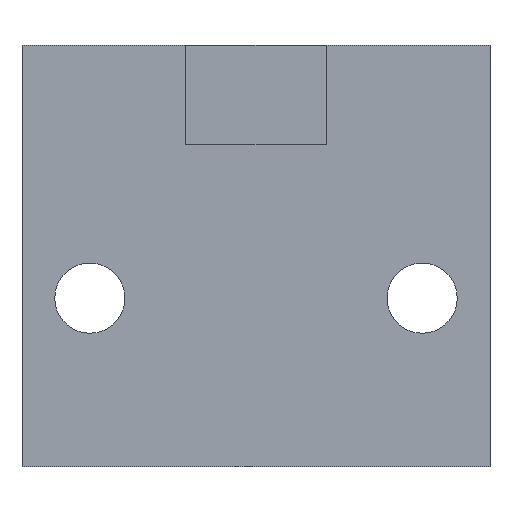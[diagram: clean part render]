
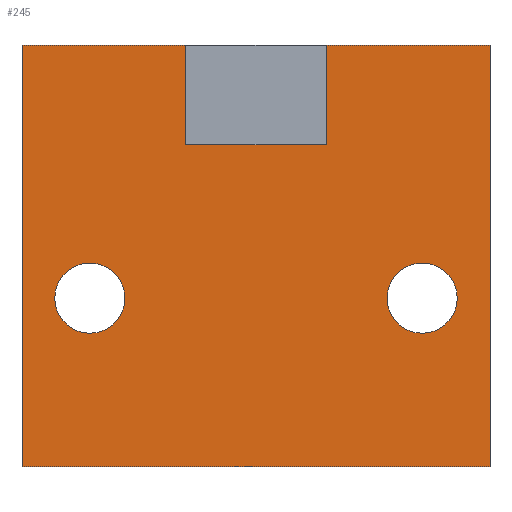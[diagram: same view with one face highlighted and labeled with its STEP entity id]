
A CAD part, top view. The second image highlights one B-rep face of the part: STEP entity #245.
In plain terms, the highlighted planar face has unit normal (0, 0, 1).
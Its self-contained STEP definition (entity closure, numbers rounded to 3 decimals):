
#13=FACE_BOUND('',#54,.T.);
#14=FACE_BOUND('',#55,.T.);
#17=CIRCLE('',#269,1.5);
#19=CIRCLE('',#272,1.5);
#39=FACE_OUTER_BOUND('',#53,.T.);
#53=EDGE_LOOP('',(#209,#210,#211,#212));
#54=EDGE_LOOP('',(#213));
#55=EDGE_LOOP('',(#214));
#75=LINE('',#390,#101);
#78=LINE('',#396,#104);
#81=LINE('',#402,#107);
#84=LINE('',#406,#110);
#101=VECTOR('',#324,1.);
#104=VECTOR('',#329,1.);
#107=VECTOR('',#334,1.);
#110=VECTOR('',#339,1.);
#119=VERTEX_POINT('',#372);
#121=VERTEX_POINT('',#378);
#125=VERTEX_POINT('',#387);
#126=VERTEX_POINT('',#389);
#128=VERTEX_POINT('',#395);
#130=VERTEX_POINT('',#401);
#143=EDGE_CURVE('',#119,#119,#17,.T.);
#146=EDGE_CURVE('',#121,#121,#19,.T.);
#151=EDGE_CURVE('',#126,#125,#75,.T.);
#154=EDGE_CURVE('',#128,#126,#78,.T.);
#157=EDGE_CURVE('',#130,#128,#81,.T.);
#160=EDGE_CURVE('',#125,#130,#84,.T.);
#209=ORIENTED_EDGE('',*,*,#160,.T.);
#210=ORIENTED_EDGE('',*,*,#157,.T.);
#211=ORIENTED_EDGE('',*,*,#154,.T.);
#212=ORIENTED_EDGE('',*,*,#151,.T.);
#213=ORIENTED_EDGE('',*,*,#146,.T.);
#214=ORIENTED_EDGE('',*,*,#143,.T.);
#231=PLANE('',#278);
#245=ADVANCED_FACE('',(#39,#13,#14),#231,.T.);
#269=AXIS2_PLACEMENT_3D('',#373,#308,#309);
#272=AXIS2_PLACEMENT_3D('',#379,#315,#316);
#278=AXIS2_PLACEMENT_3D('',#407,#340,#341);
#308=DIRECTION('center_axis',(0.,0.,-1.));
#309=DIRECTION('ref_axis',(0.,1.,0.));
#315=DIRECTION('center_axis',(0.,0.,-1.));
#316=DIRECTION('ref_axis',(0.,1.,0.));
#324=DIRECTION('',(1.,0.,0.));
#329=DIRECTION('',(0.,-1.,0.));
#334=DIRECTION('',(-1.,0.,0.));
#339=DIRECTION('',(0.,1.,0.));
#340=DIRECTION('center_axis',(0.,0.,1.));
#341=DIRECTION('ref_axis',(1.,0.,0.));
#372=CARTESIAN_POINT('',(7.9,10.7,1.5));
#373=CARTESIAN_POINT('Origin',(7.9,12.2,1.5));
#378=CARTESIAN_POINT('',(22.1,10.7,1.5));
#379=CARTESIAN_POINT('Origin',(22.1,12.2,1.5));
#387=CARTESIAN_POINT('',(25.,5.,1.5));
#389=CARTESIAN_POINT('',(5.,5.,1.5));
#390=CARTESIAN_POINT('',(5.,5.,1.5));
#395=CARTESIAN_POINT('',(5.,23.,1.5));
#396=CARTESIAN_POINT('',(5.,23.,1.5));
#401=CARTESIAN_POINT('',(25.,23.,1.5));
#402=CARTESIAN_POINT('',(25.,23.,1.5));
#406=CARTESIAN_POINT('',(25.,5.,1.5));
#407=CARTESIAN_POINT('Origin',(15.,14.,1.5));
